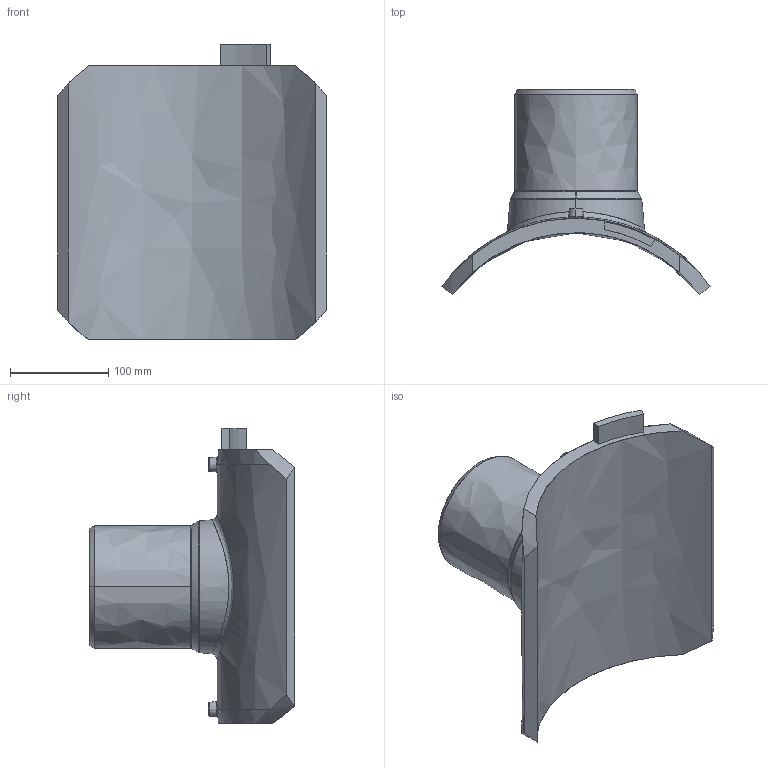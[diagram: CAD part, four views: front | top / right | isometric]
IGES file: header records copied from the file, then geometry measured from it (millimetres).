
Start section:  PTC IGES file: sa-uni_d315_125_01.igs
Global section: file name: sa-uni_d315_125_01.igs; native system: Pro/ENGINEER by Parametric Technology Corporation; preprocessor: 2011490; author: MikulicP; organization: Unknown; date: 20170203.114828; units: millimetre
Bounding box: 273.25 x 208.75 x 301 mm (x, y, z)
Surface area: 289222.2 mm2 (no closed solid volume)
Topology: 0 solids, 0 shells, 202 faces, 1000 edges, 1000 vertices
Faces by surface type: bspline 202
